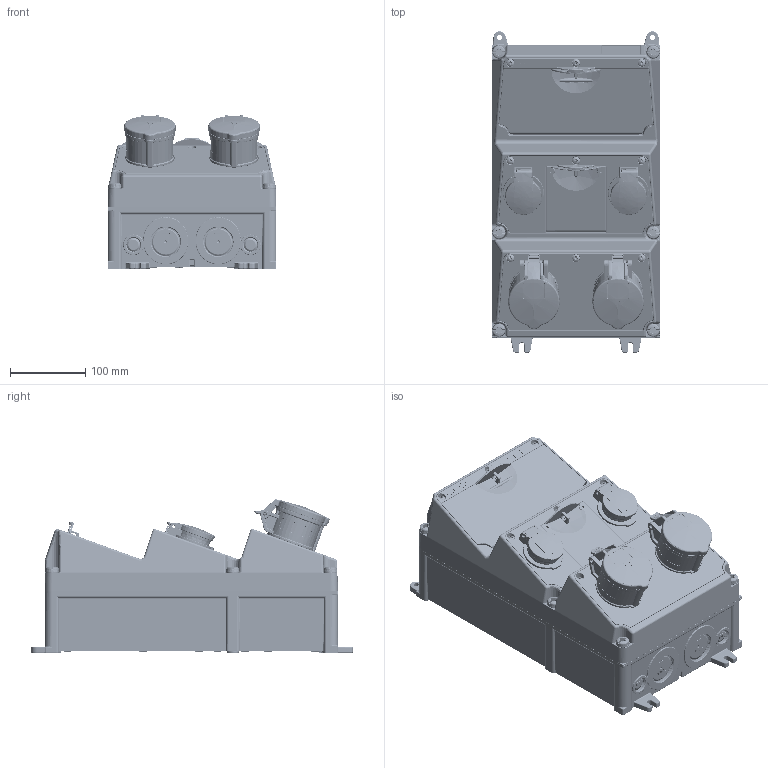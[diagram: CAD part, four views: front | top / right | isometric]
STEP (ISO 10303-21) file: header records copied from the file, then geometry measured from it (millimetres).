
FILE_DESCRIPTION((''),'2;1');
FILE_NAME('930036-1_ASM_1_ASM','2018-05-08T',('kremer'),('MENNEKES'),'PRO/ENGINEER BY PARAMETRIC TECHNOLOGY CORPORATION, 2015440','PRO/ENGINEER BY PARAMETRIC TECHNOLOGY CORPORATION, 2015440','');
FILE_SCHEMA(('AUTOMOTIVE_DESIGN { 1 0 10303 214 1 1 1 1 }'));
Products named in the file (15): 3-4_SW_O_GRAU_1; MP_FEN10_44_OBEN_GRAU_1; MP_FEN4_44_OBEN_GRAU_1; MP_LEER_GRAU_1; MANIFOLD_SOLID_BREP_327737; MANIFOLD_SOLID_BREP_416100; MANIFOLD_SOLID_BREP_416437; MANIFOLD_SOLID_BREP_418916; FI_4POL_4TE_1_ASM; LS_4POL_4TE_1; LS_1POL_1TE_1; BAUTEIL_DUMMY__1; AMAXX_CEE_16_5_44_ROT_1; AMAXX_SCHUKO_44_BLAU_1; 930036-1_ASM_1_ASM
Assembly tree (18 placements, depth 3):
  930036-1_ASM_1_ASM
    3-4_SW_O_GRAU_1
    MP_FEN10_44_OBEN_GRAU_1
    MP_FEN4_44_OBEN_GRAU_1
    MP_LEER_GRAU_1
    FI_4POL_4TE_1_ASM
      MANIFOLD_SOLID_BREP_327737
      MANIFOLD_SOLID_BREP_416100
      MANIFOLD_SOLID_BREP_416437
      MANIFOLD_SOLID_BREP_418916
    LS_4POL_4TE_1  x2
    LS_1POL_1TE_1  x2
    BAUTEIL_DUMMY__1
    AMAXX_CEE_16_5_44_ROT_1  x2
    AMAXX_SCHUKO_44_BLAU_1  x2
Bounding box: 225 x 428.2 x 204.71 mm (x, y, z)
Volume: 9593790.5 mm3; surface area: 1133807.8 mm2
Topology: 16 solids, 16 shells, 13998 faces, 38943 edges, 24916 vertices
Faces by surface type: plane 6872, cylinder 3962, bspline 1184, torus 1144, cone 364, sphere 278, extrusion 194
Entity records: 519403 total; most frequent: CARTESIAN_POINT 145884, ORIENTED_EDGE 62040, DIRECTION 54887, EDGE_CURVE 31020, VERTEX_POINT 19878, AXIS2_PLACEMENT_3D 18782, PRESENTATION_STYLE_ASSIGNMENT 17726, VECTOR 17323
